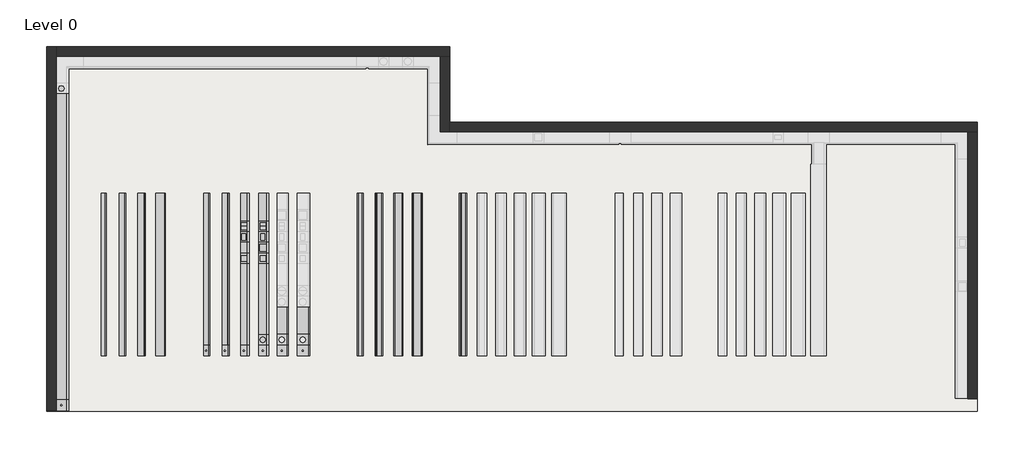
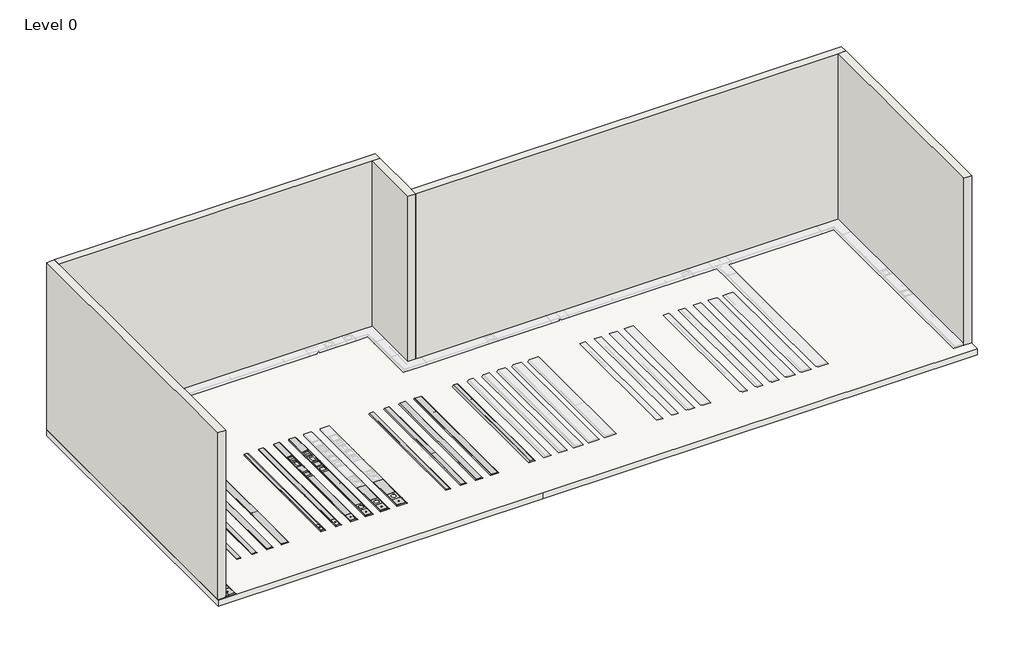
# One storey, part 1 of 3: 37 proxies, 35 cable carrier fittings, 29 cable carrier segments, 5 walls, 1 slab.
"""IFC4 building model written with IfcOpenShell, lengths in millimetres."""

from ifc_helpers import new_model, si_unit, frame, origin, origin_with_axes, place, context, project, spatial, polyline, outline, extrude, faceted_brep, transform, mapped, element, save
from components import electrical_fixtures_05cc857e, electrical_fixtures_f33839d7, electrical_fixtures_ba14407c, electrical_fixtures_65cdaa76, electrical_fixtures_ac32d23e, electrical_fixtures_02c799a8, electrical_fixtures_d09597e5, electrical_fixtures_258d29b7, electrical_fixtures_09e81cb8, electrical_fixtures_cb09e402, electrical_fixtures_030f25a6, electrical_fixtures_3be69e12, electrical_fixtures_9ca14389, electrical_fixtures_dc33c729, electrical_fixtures_804eddf2, electrical_fixtures_036a8886, electrical_fixtures_71575465, electrical_fixtures_682a3526, electrical_fixtures_fb766957, electrical_fixtures_fe2920ec, electrical_fixtures_4618f37a, electrical_fixtures_8a86bcad, electrical_fixtures_4cfbbe80, electrical_fixtures_90d3c515, electrical_fixtures_87b274da, electrical_fixtures_82f9d89b, electrical_fixtures_f480c002, electrical_fixtures_7eaf1fa6, electrical_fixtures_c1a48e14, electrical_fixtures_38a7e8f5, electrical_fixtures_3c40ff21, electrical_fixtures_61ad2b22, electrical_fixtures_64d9bd68, electrical_fixtures_30c5370d, electrical_fixtures_be977d01, electrical_fixtures_6f066a29, cable_carrier_fitting_c523f5b3, cable_carrier_fitting_70c32f65, cable_carrier_fitting_c61de814, cable_carrier_fitting_a1d8f8d7, cable_carrier_fitting_54bbb1a4, cable_carrier_fitting_d6a7fd45, cable_carrier_fitting_88479c70, cable_carrier_fitting_67592bc5, cable_carrier_fitting_ba382e1f, cable_carrier_fitting_8189a595, cable_carrier_fitting_91090111, cable_carrier_fitting_cbe752f2, cable_carrier_fitting_706685b8, cable_carrier_fitting_c839ef92, cable_carrier_fitting_9fda98ba, cable_carrier_fitting_430507f7, cable_carrier_fitting_90cd9352, cable_carrier_fitting_27d71de1, cable_carrier_fitting_eb91abf8

model = new_model("IFC4")

# Units and contexts
model_context = context("Model", 3, world=origin())
ifc_project = project(units=[si_unit("LENGTHUNIT", "METRE", prefix="MILLI")], contexts=[model_context])

# Site, building, storey
site = spatial("IfcSite", under=ifc_project)
building = spatial("IfcBuilding", under=site)
storey = spatial("IfcBuildingStorey", under=building, Name="Level 0", Elevation=0.0)

# Proxies
placement = place(None, origin())
electrical_fixtures_shape = electrical_fixtures_05cc857e(model_context)
element("IfcBuildingElementProxy", 1, Name="Electrical_Installation_Hager_Covers-With-Installation-Opening-E04 : Electrical_Installation_Hager_Covers-With-Installation-Opening-E04", ObjectType="Electrical_Installation_Hager_Covers-With-Installation-Opening-E04 : Electrical_Installation_Hager_Covers-With-Installation-Opening-E04", at=placement, inside=storey, context=model_context, shape_type="MappedRepresentation", body=[
    mapped(electrical_fixtures_shape, transform((-845.9970638, -4975.7909265, 35.0), x_axis=(0.0, 1.0, 0.0), y_axis=(-1.0, 0.0, 0.0), z_axis=(0.0, 0.0, 1.0))),
])
electrical_fixtures_2_shape = electrical_fixtures_f33839d7(model_context)
element("IfcBuildingElementProxy", 2, Name="Electrical_Installation_Hager_Covers-With-Installation-Opening-E04 : Electrical_Installation_Hager_Covers-With-Installation-Opening-E04", ObjectType="Electrical_Installation_Hager_Covers-With-Installation-Opening-E04 : Electrical_Installation_Hager_Covers-With-Installation-Opening-E04", at=placement, inside=storey, context=model_context, shape_type="MappedRepresentation", body=[
    mapped(electrical_fixtures_2_shape, transform((-145.9915625, -4975.7909265, 35.0), x_axis=(0.0, 1.0000000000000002, 0.0), y_axis=(-1.0000000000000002, 0.0, 0.0), z_axis=(0.0, 0.0, 1.0))),
])
electrical_fixtures_3_shape = electrical_fixtures_ba14407c(model_context)
element("IfcBuildingElementProxy", 3, Name="Electrical_Installation_Hager_Covers-With-Installation-Opening-E09 : Electrical_Installation_Hager_Covers-With-Installation-Opening-E09", ObjectType="Electrical_Installation_Hager_Covers-With-Installation-Opening-E09 : Electrical_Installation_Hager_Covers-With-Installation-Opening-E09", at=placement, inside=storey, context=model_context, shape_type="MappedRepresentation", body=[
    mapped(electrical_fixtures_3_shape, transform((-145.9915625, -4575.7909265, 35.0), x_axis=(0.0, 1.0000000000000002, 0.0), y_axis=(-1.0000000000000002, 0.0, 0.0), z_axis=(0.0, 0.0, 1.0))),
])
electrical_fixtures_4_shape = electrical_fixtures_65cdaa76(model_context)
element("IfcBuildingElementProxy", 4, Name="Electrical_Installation_Hager_Covers-With-Installation-Opening-E09 : Electrical_Installation_Hager_Covers-With-Installation-Opening-E09", ObjectType="Electrical_Installation_Hager_Covers-With-Installation-Opening-E09 : Electrical_Installation_Hager_Covers-With-Installation-Opening-E09", at=placement, inside=storey, context=model_context, shape_type="MappedRepresentation", body=[
    mapped(electrical_fixtures_4_shape, transform((-845.9915625, -4575.7909265, 35.0), x_axis=(0.0, 1.0000000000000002, 0.0), y_axis=(-1.0000000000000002, 0.0, 0.0), z_axis=(0.0, 0.0, 1.0))),
])
electrical_fixtures_5_shape = electrical_fixtures_ac32d23e(model_context)
element("IfcBuildingElementProxy", 5, Name="Electrical_Installation_Hager_Covers-With-Installation-Opening-GBZ : Electrical_Installation_Hager_Covers-With-Installation-Opening-GBZ", ObjectType="Electrical_Installation_Hager_Covers-With-Installation-Opening-GBZ : Electrical_Installation_Hager_Covers-With-Installation-Opening-GBZ", at=placement, inside=storey, context=model_context, shape_type="MappedRepresentation", body=[
    mapped(electrical_fixtures_5_shape, transform((1328.4735178, -9175.7909265, 35.0), x_axis=(0.0, 1.0000000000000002, 0.0), y_axis=(-1.0000000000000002, 0.0, 0.0), z_axis=(0.0, 0.0, 1.0))),
])
element("IfcBuildingElementProxy", 6, Name="Electrical_Installation_Hager_Covers-With-Installation-Opening-GBZ : Electrical_Installation_Hager_Covers-With-Installation-Opening-GBZ", ObjectType="Electrical_Installation_Hager_Covers-With-Installation-Opening-GBZ : Electrical_Installation_Hager_Covers-With-Installation-Opening-GBZ", at=placement, inside=storey, context=model_context, shape_type="MappedRepresentation", body=[
    mapped(electrical_fixtures_5_shape, transform((-7589.0640916, -11193.2434021, 35.0), x_axis=(0.0, 1.0, 0.0), y_axis=(-1.0, 0.0, 0.0), z_axis=(0.0, 0.0, 1.0))),
])
electrical_fixtures_6_shape = electrical_fixtures_02c799a8(model_context)
element("IfcBuildingElementProxy", 7, Name="Electrical_Installation_Hager_Covers-With-Installation-Opening-GBZ : Electrical_Installation_Hager_Covers-With-Installation-Opening-GBZ", ObjectType="Electrical_Installation_Hager_Covers-With-Installation-Opening-GBZ : Electrical_Installation_Hager_Covers-With-Installation-Opening-GBZ", at=placement, inside=storey, context=model_context, shape_type="MappedRepresentation", body=[
    mapped(electrical_fixtures_6_shape, transform((554.0029362, -9175.7909265, 35.0), x_axis=(0.0, 1.0000000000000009, 0.0), y_axis=(-1.0000000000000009, 0.0, 0.0), z_axis=(0.0, 0.0, 1.0))),
])
electrical_fixtures_7_shape = electrical_fixtures_d09597e5(model_context)
element("IfcBuildingElementProxy", 8, Name="Electrical_Installation_Hager_Covers-With-Installation-Opening-GBZ : Electrical_Installation_Hager_Covers-With-Installation-Opening-GBZ", ObjectType="Electrical_Installation_Hager_Covers-With-Installation-Opening-GBZ : Electrical_Installation_Hager_Covers-With-Installation-Opening-GBZ", at=placement, inside=storey, context=model_context, shape_type="MappedRepresentation", body=[
    mapped(electrical_fixtures_7_shape, transform((-845.9970638, -9175.7909265, 35.0), x_axis=(0.0, 1.0000000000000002, 0.0), y_axis=(-1.0000000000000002, 0.0, 0.0), z_axis=(0.0, 0.0, 1.0))),
])
electrical_fixtures_8_shape = electrical_fixtures_258d29b7(model_context)
element("IfcBuildingElementProxy", 9, Name="Electrical_Installation_Hager_Covers-With-Installation-Opening-GBZ : Electrical_Installation_Hager_Covers-With-Installation-Opening-GBZ", ObjectType="Electrical_Installation_Hager_Covers-With-Installation-Opening-GBZ : Electrical_Installation_Hager_Covers-With-Installation-Opening-GBZ", at=placement, inside=storey, context=model_context, shape_type="MappedRepresentation", body=[
    mapped(electrical_fixtures_8_shape, transform((-1545.9970638, -9175.7909265, 35.0), x_axis=(0.0, 1.0000000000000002, 0.0), y_axis=(-1.0000000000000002, 0.0, 0.0), z_axis=(0.0, 0.0, 1.0))),
])
electrical_fixtures_9_shape = electrical_fixtures_09e81cb8(model_context)
element("IfcBuildingElementProxy", 10, Name="Electrical_Installation_Hager_Covers-With-Installation-Opening-GBZ : Electrical_Installation_Hager_Covers-With-Installation-Opening-GBZ", ObjectType="Electrical_Installation_Hager_Covers-With-Installation-Opening-GBZ : Electrical_Installation_Hager_Covers-With-Installation-Opening-GBZ", at=placement, inside=storey, context=model_context, shape_type="MappedRepresentation", body=[
    mapped(electrical_fixtures_9_shape, transform((-2245.9970638, -9175.7909265, 35.0), x_axis=(0.0, 1.0000000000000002, 0.0), y_axis=(-1.0000000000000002, 0.0, 0.0), z_axis=(0.0, 0.0, 1.0))),
])
electrical_fixtures_10_shape = electrical_fixtures_cb09e402(model_context)
element("IfcBuildingElementProxy", 11, Name="Electrical_Installation_Hager_Covers-With-Installation-Opening-Q06 : Electrical_Installation_Hager_Covers-With-Installation-Opening-Q06", ObjectType="Electrical_Installation_Hager_Covers-With-Installation-Opening-Q06 : Electrical_Installation_Hager_Covers-With-Installation-Opening-Q06", at=placement, inside=storey, context=model_context, shape_type="MappedRepresentation", body=[
    mapped(electrical_fixtures_10_shape, transform((-145.9970638, -5775.7909265, 35.0), x_axis=(0.0, 1.0000000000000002, 0.0), y_axis=(-1.0000000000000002, 0.0, 0.0), z_axis=(0.0, 0.0, 1.0))),
])
electrical_fixtures_11_shape = electrical_fixtures_030f25a6(model_context)
element("IfcBuildingElementProxy", 12, Name="Electrical_Installation_Hager_Covers-With-Installation-Opening-R06 : Electrical_Installation_Hager_Covers-With-Installation-Opening-R06", ObjectType="Electrical_Installation_Hager_Covers-With-Installation-Opening-R06 : Electrical_Installation_Hager_Covers-With-Installation-Opening-R06", at=placement, inside=storey, context=model_context, shape_type="MappedRepresentation", body=[
    mapped(electrical_fixtures_11_shape, transform((-145.9970638, -8775.7909265, 35.0), x_axis=(0.0, 1.0000000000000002, 0.0), y_axis=(-1.0000000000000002, 0.0, 0.0), z_axis=(0.0, 0.0, 1.0))),
])
electrical_fixtures_12_shape = electrical_fixtures_3be69e12(model_context)
element("IfcBuildingElementProxy", 13, Name="Electrical_Installation_Hager_Covers-With-Installation-Opening-R06 : Electrical_Installation_Hager_Covers-With-Installation-Opening-R06", ObjectType="Electrical_Installation_Hager_Covers-With-Installation-Opening-R06 : Electrical_Installation_Hager_Covers-With-Installation-Opening-R06", at=placement, inside=storey, context=model_context, shape_type="MappedRepresentation", body=[
    mapped(electrical_fixtures_12_shape, transform((1328.4735178, -8775.7909265, 35.0), x_axis=(0.0, 1.0000000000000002, 0.0), y_axis=(-1.0000000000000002, 0.0, 0.0), z_axis=(0.0, 0.0, 1.0))),
])
electrical_fixtures_13_shape = electrical_fixtures_9ca14389(model_context)
element("IfcBuildingElementProxy", 14, Name="Electrical_Installation_Hager_Blank-Cover-800mm-Double-Sided-Height-40mm : Electrical_Installation_Hager_Blank-Cover-800mm-Double-Sided-Height-40mm", ObjectType="Electrical_Installation_Hager_Blank-Cover-800mm-Double-Sided-Height-40mm : Electrical_Installation_Hager_Blank-Cover-800mm-Double-Sided-Height-40mm", at=placement, inside=storey, context=model_context, shape_type="MappedRepresentation", body=[
    mapped(electrical_fixtures_13_shape, transform((3454.0029362, -9175.7909265, 20.0), x_axis=(0.0, 1.0, 0.0), y_axis=(-1.0, 0.0, 0.0), z_axis=(0.0, 0.0, 1.0))),
])
electrical_fixtures_14_shape = electrical_fixtures_dc33c729(model_context)
element("IfcBuildingElementProxy", 15, Name="Electrical_Installation_Hager_Blank-Cover-800mm-Double-Sided-Height-40mm : Electrical_Installation_Hager_Blank-Cover-800mm-Double-Sided-Height-40mm", ObjectType="Electrical_Installation_Hager_Blank-Cover-800mm-Double-Sided-Height-40mm : Electrical_Installation_Hager_Blank-Cover-800mm-Double-Sided-Height-40mm", at=placement, inside=storey, context=model_context, shape_type="MappedRepresentation", body=[
    mapped(electrical_fixtures_14_shape, transform((4154.0029362, -9175.7909265, 20.0), x_axis=(0.0, 1.0, 0.0), y_axis=(-1.0, 0.0, 0.0), z_axis=(0.0, 0.0, 1.0))),
])
electrical_fixtures_15_shape = electrical_fixtures_804eddf2(model_context)
element("IfcBuildingElementProxy", 16, Name="Electrical_Installation_Hager_Blank-Cover-800mm-Double-Sided-Height-40mm : Electrical_Installation_Hager_Blank-Cover-800mm-Double-Sided-Height-40mm", ObjectType="Electrical_Installation_Hager_Blank-Cover-800mm-Double-Sided-Height-40mm : Electrical_Installation_Hager_Blank-Cover-800mm-Double-Sided-Height-40mm", at=placement, inside=storey, context=model_context, shape_type="MappedRepresentation", body=[
    mapped(electrical_fixtures_15_shape, transform((4854.0029362, -9175.7909265, 20.0), x_axis=(0.0, 1.0, 0.0), y_axis=(-1.0, 0.0, 0.0), z_axis=(0.0, 0.0, 1.0))),
])
electrical_fixtures_16_shape = electrical_fixtures_036a8886(model_context)
element("IfcBuildingElementProxy", 17, Name="Electrical_Installation_Hager_Blank-Cover-800mm-Double-Sided-Height-40mm : Electrical_Installation_Hager_Blank-Cover-800mm-Double-Sided-Height-40mm", ObjectType="Electrical_Installation_Hager_Blank-Cover-800mm-Double-Sided-Height-40mm : Electrical_Installation_Hager_Blank-Cover-800mm-Double-Sided-Height-40mm", at=placement, inside=storey, context=model_context, shape_type="MappedRepresentation", body=[
    mapped(electrical_fixtures_16_shape, transform((5554.0029362, -9175.7909265, 20.0), x_axis=(0.0, 1.0, 0.0), y_axis=(-1.0, 0.0, 0.0), z_axis=(0.0, 0.0, 1.0))),
])
electrical_fixtures_17_shape = electrical_fixtures_71575465(model_context)
element("IfcBuildingElementProxy", 18, Name="Electrical_Installation_Hager_Blank-Cover-800mm-Double-Sided-Height-70mm : Electrical_Installation_Hager_Blank-Cover-800mm-Double-Sided-Height-70mm", ObjectType="Electrical_Installation_Hager_Blank-Cover-800mm-Double-Sided-Height-70mm : Electrical_Installation_Hager_Blank-Cover-800mm-Double-Sided-Height-70mm", at=placement, inside=storey, context=model_context, shape_type="MappedRepresentation", body=[
    mapped(electrical_fixtures_17_shape, transform((7254.0029362, -9175.7909265, 35.0), x_axis=(0.0, 1.0, 0.0), y_axis=(-1.0, 0.0, 0.0), z_axis=(0.0, 0.0, 1.0))),
])
electrical_fixtures_18_shape = electrical_fixtures_682a3526(model_context)
element("IfcBuildingElementProxy", 19, Name="Electrical_Installation_Hager_Blank-Cover-800mm-Single-Sided-Height-40mm : Electrical_Installation_Hager_Blank-Cover-800mm-Single-Sided-Height-40mm", ObjectType="Electrical_Installation_Hager_Blank-Cover-800mm-Single-Sided-Height-40mm : Electrical_Installation_Hager_Blank-Cover-800mm-Single-Sided-Height-40mm", at=placement, inside=storey, context=model_context, shape_type="MappedRepresentation", body=[
    mapped(electrical_fixtures_18_shape, transform((-6045.9970638, -9172.7909265, 20.0), x_axis=(0.0, 1.0, 0.0), y_axis=(-1.0, 0.0, 0.0), z_axis=(0.0, 0.0, 1.0))),
])
electrical_fixtures_19_shape = electrical_fixtures_fb766957(model_context)
element("IfcBuildingElementProxy", 20, Name="Electrical_Installation_Hager_Blank-Cover-800mm-Single-Sided-Height-40mm : Electrical_Installation_Hager_Blank-Cover-800mm-Single-Sided-Height-40mm", ObjectType="Electrical_Installation_Hager_Blank-Cover-800mm-Single-Sided-Height-40mm : Electrical_Installation_Hager_Blank-Cover-800mm-Single-Sided-Height-40mm", at=placement, inside=storey, context=model_context, shape_type="MappedRepresentation", body=[
    mapped(electrical_fixtures_19_shape, transform((-5345.9970638, -9175.7909265, 20.0), x_axis=(0.0, 1.0, 0.0), y_axis=(-1.0, 0.0, 0.0), z_axis=(0.0, 0.0, 1.0))),
])
electrical_fixtures_20_shape = electrical_fixtures_fe2920ec(model_context)
element("IfcBuildingElementProxy", 21, Name="Electrical_Installation_Hager_Blank-Cover-800mm-Single-Sided-Height-40mm : Electrical_Installation_Hager_Blank-Cover-800mm-Single-Sided-Height-40mm", ObjectType="Electrical_Installation_Hager_Blank-Cover-800mm-Single-Sided-Height-40mm : Electrical_Installation_Hager_Blank-Cover-800mm-Single-Sided-Height-40mm", at=placement, inside=storey, context=model_context, shape_type="MappedRepresentation", body=[
    mapped(electrical_fixtures_20_shape, transform((-4645.9970638, -9175.7909265, 20.0), x_axis=(0.0, 1.0, 0.0), y_axis=(-1.0, 0.0, 0.0), z_axis=(0.0, 0.0, 1.0))),
])
electrical_fixtures_21_shape = electrical_fixtures_4618f37a(model_context)
element("IfcBuildingElementProxy", 22, Name="Electrical_Installation_Hager_Blank-Cover-800mm-Single-Sided-Height-40mm : Electrical_Installation_Hager_Blank-Cover-800mm-Single-Sided-Height-40mm", ObjectType="Electrical_Installation_Hager_Blank-Cover-800mm-Single-Sided-Height-40mm : Electrical_Installation_Hager_Blank-Cover-800mm-Single-Sided-Height-40mm", at=placement, inside=storey, context=model_context, shape_type="MappedRepresentation", body=[
    mapped(electrical_fixtures_21_shape, transform((-3945.9970638, -9175.7909265, 20.0), x_axis=(0.0, 1.0, 0.0), y_axis=(-1.0, 0.0, 0.0), z_axis=(0.0, 0.0, 1.0))),
])
electrical_fixtures_22_shape = electrical_fixtures_8a86bcad(model_context)
element("IfcBuildingElementProxy", 23, Name="Electrical_Installation_Hager_Blank-Cover-800mm-Single-Sided-Height-70mm : Electrical_Installation_Hager_Blank-Cover-800mm-Single-Sided-Height-70mm", ObjectType="Electrical_Installation_Hager_Blank-Cover-800mm-Single-Sided-Height-70mm : Electrical_Installation_Hager_Blank-Cover-800mm-Single-Sided-Height-70mm", at=placement, inside=storey, context=model_context, shape_type="MappedRepresentation", body=[
    mapped(electrical_fixtures_22_shape, transform((-2245.9970638, -8775.7909265, 35.0), x_axis=(0.0, 1.0, 0.0), y_axis=(-1.0, 0.0, 0.0), z_axis=(0.0, 0.0, 1.0))),
])
electrical_fixtures_23_shape = electrical_fixtures_4cfbbe80(model_context)
element("IfcBuildingElementProxy", 24, Name="Electrical_Installation_Hager_Blank-Cover-800mm-Single-Sided-Height-70mm : Electrical_Installation_Hager_Blank-Cover-800mm-Single-Sided-Height-70mm", ObjectType="Electrical_Installation_Hager_Blank-Cover-800mm-Single-Sided-Height-70mm : Electrical_Installation_Hager_Blank-Cover-800mm-Single-Sided-Height-70mm", at=placement, inside=storey, context=model_context, shape_type="MappedRepresentation", body=[
    mapped(electrical_fixtures_23_shape, transform((-1545.9970638, -8775.7909265, 35.0), x_axis=(0.0, 1.0, 0.0), y_axis=(-1.0, 0.0, 0.0), z_axis=(0.0, 0.0, 1.0))),
])
electrical_fixtures_24_shape = electrical_fixtures_90d3c515(model_context)
element("IfcBuildingElementProxy", 25, Name="Electrical_Installation_Hager_Blank-Cover-800mm-Single-Sided-Height-70mm : Electrical_Installation_Hager_Blank-Cover-800mm-Single-Sided-Height-70mm", ObjectType="Electrical_Installation_Hager_Blank-Cover-800mm-Single-Sided-Height-70mm : Electrical_Installation_Hager_Blank-Cover-800mm-Single-Sided-Height-70mm", at=placement, inside=storey, context=model_context, shape_type="MappedRepresentation", body=[
    mapped(electrical_fixtures_24_shape, transform((-845.9970638, -8775.7909265, 35.0), x_axis=(0.0, 1.0, 0.0), y_axis=(-1.0, 0.0, 0.0), z_axis=(0.0, 0.0, 1.0))),
])
electrical_fixtures_25_shape = electrical_fixtures_87b274da(model_context)
element("IfcBuildingElementProxy", 26, Name="Electrical_Installation_Hager_Blank-Cover-800mm-Single-Sided-Height-70mm : Electrical_Installation_Hager_Blank-Cover-800mm-Single-Sided-Height-70mm", ObjectType="Electrical_Installation_Hager_Blank-Cover-800mm-Single-Sided-Height-70mm : Electrical_Installation_Hager_Blank-Cover-800mm-Single-Sided-Height-70mm", at=placement, inside=storey, context=model_context, shape_type="MappedRepresentation", body=[
    mapped(electrical_fixtures_25_shape, transform((-145.9970638, -8375.7909265, 35.0), x_axis=(0.0, 1.0, 0.0), y_axis=(-1.0, 0.0, 0.0), z_axis=(0.0, 0.0, 1.0))),
])
electrical_fixtures_26_shape = electrical_fixtures_82f9d89b(model_context)
element("IfcBuildingElementProxy", 27, Name="Electrical_Installation_Hager_Blank-Cover-800mm-Single-Sided-Height-70mm : Electrical_Installation_Hager_Blank-Cover-800mm-Single-Sided-Height-70mm", ObjectType="Electrical_Installation_Hager_Blank-Cover-800mm-Single-Sided-Height-70mm : Electrical_Installation_Hager_Blank-Cover-800mm-Single-Sided-Height-70mm", at=placement, inside=storey, context=model_context, shape_type="MappedRepresentation", body=[
    mapped(electrical_fixtures_26_shape, transform((554.0084375, -8375.7909265, 35.0), x_axis=(0.0, 1.0, 0.0), y_axis=(-1.0, 0.0, 0.0), z_axis=(0.0, 0.0, 1.0))),
])
electrical_fixtures_27_shape = electrical_fixtures_f480c002(model_context)
element("IfcBuildingElementProxy", 28, Name="Electrical_Installation_Hager_Blank-Cover-800mm-Single-Sided-Height-70mm : Electrical_Installation_Hager_Blank-Cover-800mm-Single-Sided-Height-70mm", ObjectType="Electrical_Installation_Hager_Blank-Cover-800mm-Single-Sided-Height-70mm : Electrical_Installation_Hager_Blank-Cover-800mm-Single-Sided-Height-70mm", at=placement, inside=storey, context=model_context, shape_type="MappedRepresentation", body=[
    mapped(electrical_fixtures_27_shape, transform((1328.479019, -8375.7909265, 35.0), x_axis=(0.0, 1.0, 0.0), y_axis=(-1.0, 0.0, 0.0), z_axis=(0.0, 0.0, 1.0))),
])
electrical_fixtures_28_shape = electrical_fixtures_7eaf1fa6(model_context)
element("IfcBuildingElementProxy", 29, Name="Electrical_Installation_Hager_Blank-Cover-800mm-Single-Sided-Height-70mm : Electrical_Installation_Hager_Blank-Cover-800mm-Single-Sided-Height-70mm", ObjectType="Electrical_Installation_Hager_Blank-Cover-800mm-Single-Sided-Height-70mm : Electrical_Installation_Hager_Blank-Cover-800mm-Single-Sided-Height-70mm", at=placement, inside=storey, context=model_context, shape_type="MappedRepresentation", body=[
    mapped(electrical_fixtures_28_shape, transform((-845.9915625, -4175.7909265, 35.0), x_axis=(0.0, 1.0, 0.0), y_axis=(-1.0, 0.0, 0.0), z_axis=(0.0, 0.0, 1.0))),
])
electrical_fixtures_29_shape = electrical_fixtures_c1a48e14(model_context)
element("IfcBuildingElementProxy", 30, Name="Electrical_Installation_Hager_Blank-Cover-800mm-Single-Sided-Height-70mm : Electrical_Installation_Hager_Blank-Cover-800mm-Single-Sided-Height-70mm", ObjectType="Electrical_Installation_Hager_Blank-Cover-800mm-Single-Sided-Height-70mm : Electrical_Installation_Hager_Blank-Cover-800mm-Single-Sided-Height-70mm", at=placement, inside=storey, context=model_context, shape_type="MappedRepresentation", body=[
    mapped(electrical_fixtures_29_shape, transform((-145.9915625, -4175.7909265, 35.0), x_axis=(0.0, 1.0, 0.0), y_axis=(-1.0, 0.0, 0.0), z_axis=(0.0, 0.0, 1.0))),
])
electrical_fixtures_30_shape = electrical_fixtures_38a7e8f5(model_context)
element("IfcBuildingElementProxy", 31, Name="Electrical_Installation_Hager_Blank-Cover-800mm-Single-Sided-Height-70mm : Electrical_Installation_Hager_Blank-Cover-800mm-Single-Sided-Height-70mm", ObjectType="Electrical_Installation_Hager_Blank-Cover-800mm-Single-Sided-Height-70mm : Electrical_Installation_Hager_Blank-Cover-800mm-Single-Sided-Height-70mm", at=placement, inside=storey, context=model_context, shape_type="MappedRepresentation", body=[
    mapped(electrical_fixtures_30_shape, transform((-845.9915625, -5375.7909265, 35.0), x_axis=(0.0, 1.0, 0.0), y_axis=(-1.0, 0.0, 0.0), z_axis=(0.0, 0.0, 1.0))),
])
electrical_fixtures_31_shape = electrical_fixtures_3c40ff21(model_context)
element("IfcBuildingElementProxy", 32, Name="Electrical_Installation_Hager_Blank-Cover-800mm-Single-Sided-Height-70mm : Electrical_Installation_Hager_Blank-Cover-800mm-Single-Sided-Height-70mm", ObjectType="Electrical_Installation_Hager_Blank-Cover-800mm-Single-Sided-Height-70mm : Electrical_Installation_Hager_Blank-Cover-800mm-Single-Sided-Height-70mm", at=placement, inside=storey, context=model_context, shape_type="MappedRepresentation", body=[
    mapped(electrical_fixtures_31_shape, transform((-7589.0640916, -10793.2434021, 35.0), x_axis=(0.0, 1.0, 0.0), y_axis=(-1.0, 0.0, 0.0), z_axis=(0.0, 0.0, 1.0))),
])
electrical_fixtures_32_shape = electrical_fixtures_61ad2b22(model_context)
element("IfcBuildingElementProxy", 33, Name="Electrical_Installation_Hager_Partition-Wall : Electrical_Installation_Hager_Partition-Wall", ObjectType="Electrical_Installation_Hager_Partition-Wall : Electrical_Installation_Hager_Partition-Wall", at=placement, inside=storey, context=model_context, shape_type="MappedRepresentation", body=[
    mapped(electrical_fixtures_32_shape, transform((-7589.0640916, -11190.2434021, 35.0), x_axis=(0.0, 1.0, 0.0), y_axis=(-1.0, 0.0, 0.0), z_axis=(0.0, 0.0, 1.0))),
])
electrical_fixtures_33_shape = electrical_fixtures_64d9bd68(model_context)
element("IfcBuildingElementProxy", 34, Name="Electrical_Installation_Hager_Covers-With-Installation-Opening-GBZ : Electrical_Installation_Hager_Covers-With-Installation-Opening-GBZ", ObjectType="Electrical_Installation_Hager_Covers-With-Installation-Opening-GBZ : Electrical_Installation_Hager_Covers-With-Installation-Opening-GBZ", at=placement, inside=storey, context=model_context, shape_type="MappedRepresentation", body=[
    mapped(electrical_fixtures_33_shape, transform((-145.9970638, -9175.7909265, 35.0), x_axis=(0.0, 1.0000000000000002, 0.0), y_axis=(-1.0000000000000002, 0.0, 0.0), z_axis=(0.0, 0.0, 1.0))),
])
electrical_fixtures_34_shape = electrical_fixtures_30c5370d(model_context)
element("IfcBuildingElementProxy", 35, Name="Electrical_Installation_Hager_Covers-With-Installation-Opening-R06 : Electrical_Installation_Hager_Covers-With-Installation-Opening-R06", ObjectType="Electrical_Installation_Hager_Covers-With-Installation-Opening-R06 : Electrical_Installation_Hager_Covers-With-Installation-Opening-R06", at=placement, inside=storey, context=model_context, shape_type="MappedRepresentation", body=[
    mapped(electrical_fixtures_34_shape, transform((554.0029362, -8775.7909265, 35.0), x_axis=(0.0, 1.0000000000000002, 0.0), y_axis=(-1.0000000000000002, 0.0, 0.0), z_axis=(0.0, 0.0, 1.0))),
])
electrical_fixtures_35_shape = electrical_fixtures_be977d01(model_context)
element("IfcBuildingElementProxy", 36, Name="Electrical_Installation_Hager_Covers-With-Installation-Opening-Q06 : Electrical_Installation_Hager_Covers-With-Installation-Opening-Q06", ObjectType="Electrical_Installation_Hager_Covers-With-Installation-Opening-Q06 : Electrical_Installation_Hager_Covers-With-Installation-Opening-Q06", at=placement, inside=storey, context=model_context, shape_type="MappedRepresentation", body=[
    mapped(electrical_fixtures_35_shape, transform((-845.9970638, -5775.7909265, 35.0), x_axis=(0.0, 1.0000000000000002, 0.0), y_axis=(-1.0000000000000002, 0.0, 0.0), z_axis=(0.0, 0.0, 1.0))),
])
electrical_fixtures_36_shape = electrical_fixtures_6f066a29(model_context)
element("IfcBuildingElementProxy", 37, Name="Electrical_Installation_Hager_Covers-With-Installation-Opening-Q12 : Electrical_Installation_Hager_Covers-With-Installation-Opening-Q12", ObjectType="Electrical_Installation_Hager_Covers-With-Installation-Opening-Q12 : Electrical_Installation_Hager_Covers-With-Installation-Opening-Q12", at=placement, inside=storey, context=model_context, shape_type="MappedRepresentation", body=[
    mapped(electrical_fixtures_36_shape, transform((-145.9915625, -5375.7909265, 35.0), x_axis=(0.0, 1.0000000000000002, 0.0), y_axis=(-1.0000000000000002, 0.0, 0.0), z_axis=(0.0, 0.0, 1.0))),
])

# Cable carrier fittings
cable_carrier_fitting_shape = cable_carrier_fitting_c523f5b3(model_context)
element("IfcCableCarrierFitting", 38, ObjectType="Electrical_Installation_Hager_Trunking-Connector : Electrical_Installation_Hager_Trunking-Connector", at=placement, inside=storey, context=model_context, shape_type="MappedRepresentation", body=[
    mapped(cable_carrier_fitting_shape, transform((-2245.9970638, -6772.7909265, 35.0), x_axis=(0.0, 1.0, 0.0), y_axis=(1.0, 0.0, 0.0), z_axis=(0.0, 0.0, -1.0))),
])
element("IfcCableCarrierFitting", 39, ObjectType="Electrical_Installation_Hager_Trunking-Connector : Electrical_Installation_Hager_Trunking-Connector", at=placement, inside=storey, context=model_context, shape_type="MappedRepresentation", body=[
    mapped(cable_carrier_fitting_shape, transform((-2245.9970638, -4372.7909265, 35.0), x_axis=(0.0, 1.0, 0.0), y_axis=(1.0, 0.0, 0.0), z_axis=(0.0, 0.0, -1.0))),
])
cable_carrier_fitting_2_shape = cable_carrier_fitting_70c32f65(model_context)
element("IfcCableCarrierFitting", 40, ObjectType="Electrical_Installation_Hager_End-Piece : Electrical_Installation_Hager_End-Piece", at=placement, inside=storey, context=model_context, shape_type="MappedRepresentation", body=[
    mapped(cable_carrier_fitting_2_shape, transform((-6045.9970638, -9169.7909265, 20.0), x_axis=(0.0, -1.0, 0.0), y_axis=(1.0, 0.0, 0.0), z_axis=(0.0, 0.0, 1.0))),
])
cable_carrier_fitting_3_shape = cable_carrier_fitting_c61de814(model_context)
element("IfcCableCarrierFitting", 41, ObjectType="Electrical_Installation_Hager_End-Piece : Electrical_Installation_Hager_End-Piece", at=placement, inside=storey, context=model_context, shape_type="MappedRepresentation", body=[
    mapped(cable_carrier_fitting_3_shape, transform((1328.4735178, -9172.7909265, 35.0), x_axis=(0.0, -1.0, 0.0), y_axis=(1.0, 0.0, 0.0), z_axis=(0.0, 0.0, 1.0))),
])
element("IfcCableCarrierFitting", 42, ObjectType="Electrical_Installation_Hager_End-Piece : Electrical_Installation_Hager_End-Piece", at=placement, inside=storey, context=model_context, shape_type="MappedRepresentation", body=[
    mapped(cable_carrier_fitting_3_shape, transform((-7589.0640916, -11190.2434021, 35.0), x_axis=(0.0, -1.0, 0.0), y_axis=(1.0, 0.0, 0.0), z_axis=(0.0, 0.0, 1.0))),
])
cable_carrier_fitting_4_shape = cable_carrier_fitting_a1d8f8d7(model_context)
element("IfcCableCarrierFitting", 43, ObjectType="Electrical_Installation_Hager_End-Piece : Electrical_Installation_Hager_End-Piece", at=placement, inside=storey, context=model_context, shape_type="MappedRepresentation", body=[
    mapped(cable_carrier_fitting_4_shape, transform((554.0029362, -9172.7909265, 35.0), x_axis=(0.0, -1.0, 0.0), y_axis=(1.0, 0.0, 0.0), z_axis=(0.0, 0.0, 1.0))),
])
cable_carrier_fitting_5_shape = cable_carrier_fitting_54bbb1a4(model_context)
element("IfcCableCarrierFitting", 44, ObjectType="Electrical_Installation_Hager_End-Piece : Electrical_Installation_Hager_End-Piece", at=placement, inside=storey, context=model_context, shape_type="MappedRepresentation", body=[
    mapped(cable_carrier_fitting_5_shape, transform((-845.9970638, -9172.7909265, 35.0), x_axis=(0.0, -1.0, 0.0), y_axis=(1.0, 0.0, 0.0), z_axis=(0.0, 0.0, 1.0))),
])
cable_carrier_fitting_6_shape = cable_carrier_fitting_d6a7fd45(model_context)
element("IfcCableCarrierFitting", 45, ObjectType="Electrical_Installation_Hager_End-Piece : Electrical_Installation_Hager_End-Piece", at=placement, inside=storey, context=model_context, shape_type="MappedRepresentation", body=[
    mapped(cable_carrier_fitting_6_shape, transform((-1545.9970638, -9172.7909265, 35.0), x_axis=(0.0, -1.0, 0.0), y_axis=(1.0, 0.0, 0.0), z_axis=(0.0, 0.0, 1.0))),
])
cable_carrier_fitting_7_shape = cable_carrier_fitting_88479c70(model_context)
element("IfcCableCarrierFitting", 46, ObjectType="Electrical_Installation_Hager_End-Piece : Electrical_Installation_Hager_End-Piece", at=placement, inside=storey, context=model_context, shape_type="MappedRepresentation", body=[
    mapped(cable_carrier_fitting_7_shape, transform((-145.9970638, -9172.7909265, 35.0), x_axis=(0.0, -1.0, 0.0), y_axis=(1.0, 0.0, 0.0), z_axis=(0.0, 0.0, 1.0))),
])
cable_carrier_fitting_8_shape = cable_carrier_fitting_67592bc5(model_context)
element("IfcCableCarrierFitting", 47, ObjectType="Electrical_Installation_Hager_End-Piece : Electrical_Installation_Hager_End-Piece", at=placement, inside=storey, context=model_context, shape_type="MappedRepresentation", body=[
    mapped(cable_carrier_fitting_8_shape, transform((3454.0029362, -9172.7909265, 20.0), x_axis=(0.0, -1.0, 0.0), y_axis=(1.0, 0.0, 0.0), z_axis=(0.0, 0.0, 1.0))),
])
cable_carrier_fitting_9_shape = cable_carrier_fitting_ba382e1f(model_context)
element("IfcCableCarrierFitting", 48, ObjectType="Electrical_Installation_Hager_End-Piece : Electrical_Installation_Hager_End-Piece", at=placement, inside=storey, context=model_context, shape_type="MappedRepresentation", body=[
    mapped(cable_carrier_fitting_9_shape, transform((4154.0029362, -9172.7909265, 20.0), x_axis=(0.0, -1.0, 0.0), y_axis=(1.0, 0.0, 0.0), z_axis=(0.0, 0.0, 1.0))),
])
cable_carrier_fitting_10_shape = cable_carrier_fitting_8189a595(model_context)
element("IfcCableCarrierFitting", 49, ObjectType="Electrical_Installation_Hager_End-Piece : Electrical_Installation_Hager_End-Piece", at=placement, inside=storey, context=model_context, shape_type="MappedRepresentation", body=[
    mapped(cable_carrier_fitting_10_shape, transform((4854.0029362, -9172.7909265, 20.0), x_axis=(0.0, -1.0, 0.0), y_axis=(1.0, 0.0, 0.0), z_axis=(0.0, 0.0, 1.0))),
])
cable_carrier_fitting_11_shape = cable_carrier_fitting_91090111(model_context)
element("IfcCableCarrierFitting", 50, ObjectType="Electrical_Installation_Hager_End-Piece : Electrical_Installation_Hager_End-Piece", at=placement, inside=storey, context=model_context, shape_type="MappedRepresentation", body=[
    mapped(cable_carrier_fitting_11_shape, transform((5554.0029362, -9172.7909265, 20.0), x_axis=(0.0, -1.0, 0.0), y_axis=(1.0, 0.0, 0.0), z_axis=(0.0, 0.0, 1.0))),
])
cable_carrier_fitting_12_shape = cable_carrier_fitting_cbe752f2(model_context)
element("IfcCableCarrierFitting", 51, ObjectType="Electrical_Installation_Hager_End-Piece : Electrical_Installation_Hager_End-Piece", at=placement, inside=storey, context=model_context, shape_type="MappedRepresentation", body=[
    mapped(cable_carrier_fitting_12_shape, transform((-4645.9970638, -9172.7909265, 20.0), x_axis=(0.0, -1.0, 0.0), y_axis=(1.0, 0.0, 0.0), z_axis=(0.0, 0.0, 1.0))),
])
cable_carrier_fitting_13_shape = cable_carrier_fitting_706685b8(model_context)
element("IfcCableCarrierFitting", 52, ObjectType="Electrical_Installation_Hager_End-Piece : Electrical_Installation_Hager_End-Piece", at=placement, inside=storey, context=model_context, shape_type="MappedRepresentation", body=[
    mapped(cable_carrier_fitting_13_shape, transform((-3945.9970638, -9172.7909265, 20.0), x_axis=(0.0, -1.0, 0.0), y_axis=(1.0, 0.0, 0.0), z_axis=(0.0, 0.0, 1.0))),
])
cable_carrier_fitting_14_shape = cable_carrier_fitting_c839ef92(model_context)
element("IfcCableCarrierFitting", 53, ObjectType="Electrical_Installation_Hager_End-Piece : Electrical_Installation_Hager_End-Piece", at=placement, inside=storey, context=model_context, shape_type="MappedRepresentation", body=[
    mapped(cable_carrier_fitting_14_shape, transform((-2245.9970638, -9172.7909265, 35.0), x_axis=(0.0, -1.0, 0.0), y_axis=(1.0, 0.0, 0.0), z_axis=(0.0, 0.0, 1.0))),
])
cable_carrier_fitting_15_shape = cable_carrier_fitting_9fda98ba(model_context)
element("IfcCableCarrierFitting", 54, ObjectType="Electrical_Installation_Hager_End-Piece : Electrical_Installation_Hager_End-Piece", at=placement, inside=storey, context=model_context, shape_type="MappedRepresentation", body=[
    mapped(cable_carrier_fitting_15_shape, transform((-5345.9970638, -9172.7909265, 20.0), x_axis=(0.0, -1.0, 0.0), y_axis=(1.0, 0.0, 0.0), z_axis=(0.0, 0.0, 1.0))),
])
element("IfcCableCarrierFitting", 55, ObjectType="Electrical_Installation_Hager_Trunking-Connector : Electrical_Installation_Hager_Trunking-Connector", at=placement, inside=storey, context=model_context, shape_type="MappedRepresentation", body=[
    mapped(cable_carrier_fitting_shape, transform((-6045.9970638, -6772.7909265, 20.0), x_axis=(0.0, 1.0, 0.0), y_axis=(1.0, 0.0, 0.0), z_axis=(0.0, 0.0, -1.0))),
])
element("IfcCableCarrierFitting", 56, ObjectType="Electrical_Installation_Hager_Trunking-Connector : Electrical_Installation_Hager_Trunking-Connector", at=placement, inside=storey, context=model_context, shape_type="MappedRepresentation", body=[
    mapped(cable_carrier_fitting_shape, transform((-6045.9970638, -4372.7909265, 20.0), x_axis=(0.0, 1.0, 0.0), y_axis=(1.0, 0.0, 0.0), z_axis=(0.0, 0.0, -1.0))),
])
cable_carrier_fitting_16_shape = cable_carrier_fitting_430507f7(model_context)
element("IfcCableCarrierFitting", 57, ObjectType="Electrical_Installation_Hager_Trunking-Connector : Electrical_Installation_Hager_Trunking-Connector", at=placement, inside=storey, context=model_context, shape_type="MappedRepresentation", body=[
    mapped(cable_carrier_fitting_16_shape, transform((-5345.9970638, -6772.7909265, 20.0), x_axis=(0.0, 1.0, 0.0), y_axis=(1.0, 0.0, 0.0), z_axis=(0.0, 0.0, -1.0))),
])
element("IfcCableCarrierFitting", 58, ObjectType="Electrical_Installation_Hager_Trunking-Connector : Electrical_Installation_Hager_Trunking-Connector", at=placement, inside=storey, context=model_context, shape_type="MappedRepresentation", body=[
    mapped(cable_carrier_fitting_16_shape, transform((-5345.9970638, -4372.7909265, 20.0), x_axis=(0.0, 1.0, 0.0), y_axis=(1.0, 0.0, 0.0), z_axis=(0.0, 0.0, -1.0))),
])
cable_carrier_fitting_17_shape = cable_carrier_fitting_90cd9352(model_context)
element("IfcCableCarrierFitting", 59, ObjectType="Electrical_Installation_Hager_Trunking-Connector : Electrical_Installation_Hager_Trunking-Connector", at=placement, inside=storey, context=model_context, shape_type="MappedRepresentation", body=[
    mapped(cable_carrier_fitting_17_shape, transform((-4645.9970638, -6772.7909265, 20.0), x_axis=(0.0, 1.0, 0.0), y_axis=(1.0, 0.0, 0.0), z_axis=(0.0, 0.0, -1.0))),
])
element("IfcCableCarrierFitting", 60, ObjectType="Electrical_Installation_Hager_Trunking-Connector : Electrical_Installation_Hager_Trunking-Connector", at=placement, inside=storey, context=model_context, shape_type="MappedRepresentation", body=[
    mapped(cable_carrier_fitting_17_shape, transform((-4645.9970638, -4372.7909265, 20.0), x_axis=(0.0, 1.0, 0.0), y_axis=(1.0, 0.0, 0.0), z_axis=(0.0, 0.0, -1.0))),
])
cable_carrier_fitting_18_shape = cable_carrier_fitting_27d71de1(model_context)
element("IfcCableCarrierFitting", 61, ObjectType="Electrical_Installation_Hager_Trunking-Connector : Electrical_Installation_Hager_Trunking-Connector", at=placement, inside=storey, context=model_context, shape_type="MappedRepresentation", body=[
    mapped(cable_carrier_fitting_18_shape, transform((-3945.9970638, -6772.7909265, 20.0), x_axis=(0.0, 1.0, 0.0), y_axis=(1.0, 0.0, 0.0), z_axis=(0.0, 0.0, -1.0))),
])
element("IfcCableCarrierFitting", 62, ObjectType="Electrical_Installation_Hager_Trunking-Connector : Electrical_Installation_Hager_Trunking-Connector", at=placement, inside=storey, context=model_context, shape_type="MappedRepresentation", body=[
    mapped(cable_carrier_fitting_18_shape, transform((-3945.9970638, -4372.7909265, 20.0), x_axis=(0.0, 1.0, 0.0), y_axis=(1.0, 0.0, 0.0), z_axis=(0.0, 0.0, -1.0))),
])
element("IfcCableCarrierFitting", 63, ObjectType="Electrical_Installation_Hager_Trunking-Connector : Electrical_Installation_Hager_Trunking-Connector", at=placement, inside=storey, context=model_context, shape_type="MappedRepresentation", body=[
    mapped(cable_carrier_fitting_16_shape, transform((-1545.9970638, -6772.7909265, 35.0), x_axis=(0.0, 1.0, 0.0), y_axis=(1.0, 0.0, 0.0), z_axis=(0.0, 0.0, -1.0))),
])
element("IfcCableCarrierFitting", 64, ObjectType="Electrical_Installation_Hager_Trunking-Connector : Electrical_Installation_Hager_Trunking-Connector", at=placement, inside=storey, context=model_context, shape_type="MappedRepresentation", body=[
    mapped(cable_carrier_fitting_16_shape, transform((-1545.9970638, -4372.7909265, 35.0), x_axis=(0.0, 1.0, 0.0), y_axis=(1.0, 0.0, 0.0), z_axis=(0.0, 0.0, -1.0))),
])
element("IfcCableCarrierFitting", 65, ObjectType="Electrical_Installation_Hager_Trunking-Connector : Electrical_Installation_Hager_Trunking-Connector", at=placement, inside=storey, context=model_context, shape_type="MappedRepresentation", body=[
    mapped(cable_carrier_fitting_17_shape, transform((-845.9970638, -6772.7909265, 35.0), x_axis=(0.0, 1.0, 0.0), y_axis=(1.0, 0.0, 0.0), z_axis=(0.0, 0.0, -1.0))),
])
element("IfcCableCarrierFitting", 66, ObjectType="Electrical_Installation_Hager_Trunking-Connector : Electrical_Installation_Hager_Trunking-Connector", at=placement, inside=storey, context=model_context, shape_type="MappedRepresentation", body=[
    mapped(cable_carrier_fitting_17_shape, transform((-845.9970638, -4372.7909265, 35.0), x_axis=(0.0, 1.0, 0.0), y_axis=(1.0, 0.0, 0.0), z_axis=(0.0, 0.0, -1.0))),
])
element("IfcCableCarrierFitting", 67, ObjectType="Electrical_Installation_Hager_Trunking-Connector : Electrical_Installation_Hager_Trunking-Connector", at=placement, inside=storey, context=model_context, shape_type="MappedRepresentation", body=[
    mapped(cable_carrier_fitting_18_shape, transform((-145.9970638, -6772.7909265, 35.0), x_axis=(0.0, 1.0, 0.0), y_axis=(1.0, 0.0, 0.0), z_axis=(0.0, 0.0, -1.0))),
])
element("IfcCableCarrierFitting", 68, ObjectType="Electrical_Installation_Hager_Trunking-Connector : Electrical_Installation_Hager_Trunking-Connector", at=placement, inside=storey, context=model_context, shape_type="MappedRepresentation", body=[
    mapped(cable_carrier_fitting_18_shape, transform((-145.9970638, -4372.7909265, 35.0), x_axis=(0.0, 1.0, 0.0), y_axis=(1.0, 0.0, 0.0), z_axis=(0.0, 0.0, -1.0))),
])
cable_carrier_fitting_19_shape = cable_carrier_fitting_eb91abf8(model_context)
element("IfcCableCarrierFitting", 69, ObjectType="Electrical_Installation_Hager_Trunking-Connector : Electrical_Installation_Hager_Trunking-Connector", at=placement, inside=storey, context=model_context, shape_type="MappedRepresentation", body=[
    mapped(cable_carrier_fitting_19_shape, transform((-7589.0640916, -8790.2434021, 35.0), x_axis=(0.0, 1.0, 0.0), y_axis=(1.0, 0.0, 0.0), z_axis=(0.0, 0.0, -1.0))),
])
element("IfcCableCarrierFitting", 70, ObjectType="Electrical_Installation_Hager_Trunking-Connector : Electrical_Installation_Hager_Trunking-Connector", at=placement, inside=storey, context=model_context, shape_type="MappedRepresentation", body=[
    mapped(cable_carrier_fitting_19_shape, transform((-7589.0640916, -6390.2434021, 35.0), x_axis=(0.0, 1.0, 0.0), y_axis=(1.0, 0.0, 0.0), z_axis=(0.0, 0.0, -1.0))),
])
element("IfcCableCarrierFitting", 71, ObjectType="Electrical_Installation_Hager_Trunking-Connector : Electrical_Installation_Hager_Trunking-Connector", at=placement, inside=storey, context=model_context, shape_type="MappedRepresentation", body=[
    mapped(cable_carrier_fitting_19_shape, transform((-7589.0640916, -3990.2434021, 35.0), x_axis=(0.0, 1.0, 0.0), y_axis=(1.0, 0.0, 0.0), z_axis=(0.0, 0.0, -1.0))),
])
element("IfcCableCarrierFitting", 72, ObjectType="Electrical_Installation_Hager_Trunking-Connector : Electrical_Installation_Hager_Trunking-Connector", at=placement, inside=storey, context=model_context, shape_type="MappedRepresentation", body=[
    mapped(cable_carrier_fitting_19_shape, transform((-7589.0640916, -1590.2434021, 35.0), x_axis=(0.0, 1.0, 0.0), y_axis=(1.0, 0.0, 0.0), z_axis=(0.0, 0.0, -1.0))),
])

# Cable carrier segments
element("IfcCableCarrierSegment", 73, ObjectType="Electrical_Installations_Cable-Trays_Hager_Trunking-Lower-Part-Single-Sided", at=placement, inside=storey, context=model_context, shape_type="SweptSolid", body=[
    extrude(outline(polyline([(-5970.9970638, -4372.7909265), (-6120.9970638, -4372.7909265), (-6120.9970638, -3164.0952507), (-5970.9970638, -3164.0952507), (-5970.9970638, -4372.7909265)])), origin_with_axes(), (0.0, 0.0, 1.0), 40.0),
])
element("IfcCableCarrierSegment", 74, ObjectType="Electrical_Installations_Cable-Trays_Hager_Trunking-Lower-Part-Single-Sided", at=placement, inside=storey, context=model_context, shape_type="SweptSolid", body=[
    extrude(outline(polyline([(-2170.9970638, -4372.7909265), (-2320.9970638, -4372.7909265), (-2320.9970638, -3164.0952507), (-2170.9970638, -3164.0952507), (-2170.9970638, -4372.7909265)])), origin_with_axes(), (0.0, 0.0, 1.0), 70.0),
])
element("IfcCableCarrierSegment", 75, ObjectType="Electrical_Installations_Cable-Trays_Hager_Trunking-Lower-Part-Single-Sided", at=placement, inside=storey, context=model_context, shape_type="SweptSolid", body=[
    extrude(outline(polyline([(-1445.9970638, -4372.7909265), (-1645.9970638, -4372.7909265), (-1645.9970638, -3164.0952507), (-1445.9970638, -3164.0952507), (-1445.9970638, -4372.7909265)])), origin_with_axes(), (0.0, 0.0, 1.0), 70.0),
])
element("IfcCableCarrierSegment", 76, ObjectType="Electrical_Installations_Cable-Trays_Hager_Trunking-Lower-Part-Single-Sided", at=placement, inside=storey, context=model_context, shape_type="SweptSolid", body=[
    extrude(outline(polyline([(-720.9970638, -4372.7909265), (-970.9970638, -4372.7909265), (-970.9970638, -3164.0952507), (-720.9970638, -3164.0952507), (-720.9970638, -4372.7909265)])), origin_with_axes(), (0.0, 0.0, 1.0), 70.0),
])
element("IfcCableCarrierSegment", 77, ObjectType="Electrical_Installations_Cable-Trays_Hager_Trunking-Lower-Part-Single-Sided", at=placement, inside=storey, context=model_context, shape_type="SweptSolid", body=[
    extrude(outline(polyline([(4.0029362, -4372.7909265), (-295.9970638, -4372.7909265), (-295.9970638, -3164.0952507), (4.0029362, -3164.0952507), (4.0029362, -4372.7909265)])), origin_with_axes(), (0.0, 0.0, 1.0), 70.0),
])
element("IfcCableCarrierSegment", 78, ObjectType="Electrical_Installations_Cable-Trays_Hager_Trunking-Lower-Part-Single-Sided", at=placement, inside=storey, context=model_context, shape_type="SweptSolid", body=[
    extrude(outline(polyline([(-4520.9970638, -4372.7909265), (-4770.9970638, -4372.7909265), (-4770.9970638, -3164.0952507), (-4520.9970638, -3164.0952507), (-4520.9970638, -4372.7909265)])), origin_with_axes(), (0.0, 0.0, 1.0), 40.0),
])
element("IfcCableCarrierSegment", 79, ObjectType="Electrical_Installations_Cable-Trays_Hager_Trunking-Lower-Part-Single-Sided", at=placement, inside=storey, context=model_context, shape_type="SweptSolid", body=[
    extrude(outline(polyline([(-3795.9970638, -4372.7909265), (-4095.9970638, -4372.7909265), (-4095.9970638, -3164.0952507), (-3795.9970638, -3164.0952507), (-3795.9970638, -4372.7909265)])), origin_with_axes(), (0.0, 0.0, 1.0), 40.0),
])
element("IfcCableCarrierSegment", 80, ObjectType="Electrical_Installations_Cable-Trays_Hager_Trunking-Lower-Part-Single-Sided", at=placement, inside=storey, context=model_context, shape_type="SweptSolid", body=[
    extrude(outline(polyline([(-5245.9970638, -4372.7909265), (-5445.9970638, -4372.7909265), (-5445.9970638, -3164.0952507), (-5245.9970638, -3164.0952507), (-5245.9970638, -4372.7909265)])), origin_with_axes(), (0.0, 0.0, 1.0), 40.0),
])
element("IfcCableCarrierSegment", 81, ObjectType="Electrical_Installations_Cable-Trays_Hager_Trunking-Lower-Part-Single-Sided", at=placement, inside=storey, context=model_context, shape_type="SweptSolid", body=[
    extrude(outline(polyline([(-5970.9970638, -9169.7909265), (-6120.9970638, -9169.7909265), (-6120.9970638, -6772.7909265), (-5970.9970638, -6772.7909265), (-5970.9970638, -9169.7909265)])), origin_with_axes(), (0.0, 0.0, 1.0), 40.0),
])
element("IfcCableCarrierSegment", 82, ObjectType="Electrical_Installations_Cable-Trays_Hager_Trunking-Lower-Part-Single-Sided", at=placement, inside=storey, context=model_context, shape_type="SweptSolid", body=[
    extrude(outline(polyline([(-5245.9970638, -9172.7909265), (-5445.9970638, -9172.7909265), (-5445.9970638, -6772.7909265), (-5245.9970638, -6772.7909265), (-5245.9970638, -9172.7909265)])), origin_with_axes(), (0.0, 0.0, 1.0), 40.0),
])
element("IfcCableCarrierSegment", 83, ObjectType="Electrical_Installations_Cable-Trays_Hager_Trunking-Lower-Part-Single-Sided", at=placement, inside=storey, context=model_context, shape_type="SweptSolid", body=[
    extrude(outline(polyline([(-4520.9970638, -9172.7909265), (-4770.9970638, -9172.7909265), (-4770.9970638, -6772.7909265), (-4520.9970638, -6772.7909265), (-4520.9970638, -9172.7909265)])), origin_with_axes(), (0.0, 0.0, 1.0), 40.0),
])
element("IfcCableCarrierSegment", 84, ObjectType="Electrical_Installations_Cable-Trays_Hager_Trunking-Lower-Part-Single-Sided", at=placement, inside=storey, context=model_context, shape_type="SweptSolid", body=[
    extrude(outline(polyline([(-3795.9970638, -9172.7909265), (-4095.9970638, -9172.7909265), (-4095.9970638, -6772.7909265), (-3795.9970638, -6772.7909265), (-3795.9970638, -9172.7909265)])), origin_with_axes(), (0.0, 0.0, 1.0), 40.0),
])
element("IfcCableCarrierSegment", 85, ObjectType="Electrical_Installations_Cable-Trays_Hager_Trunking-Lower-Part-Single-Sided", at=placement, inside=storey, context=model_context, shape_type="SweptSolid", body=[
    extrude(outline(polyline([(-2170.9970638, -9172.7909265), (-2320.9970638, -9172.7909265), (-2320.9970638, -6772.7909265), (-2170.9970638, -6772.7909265), (-2170.9970638, -9172.7909265)])), origin_with_axes(), (0.0, 0.0, 1.0), 70.0),
])
element("IfcCableCarrierSegment", 86, ObjectType="Electrical_Installations_Cable-Trays_Hager_Trunking-Lower-Part-Single-Sided", at=placement, inside=storey, context=model_context, shape_type="SweptSolid", body=[
    extrude(outline(polyline([(-1445.9970638, -9172.7909265), (-1645.9970638, -9172.7909265), (-1645.9970638, -6772.7909265), (-1445.9970638, -6772.7909265), (-1445.9970638, -9172.7909265)])), origin_with_axes(), (0.0, 0.0, 1.0), 70.0),
])
element("IfcCableCarrierSegment", 87, ObjectType="Electrical_Installations_Cable-Trays_Hager_Trunking-Lower-Part-Single-Sided", at=placement, inside=storey, context=model_context, shape_type="SweptSolid", body=[
    extrude(outline(polyline([(-720.9970638, -9172.7909265), (-970.9970638, -9172.7909265), (-970.9970638, -6772.7909265), (-720.9970638, -6772.7909265), (-720.9970638, -9172.7909265)])), origin_with_axes(), (0.0, 0.0, 1.0), 70.0),
])
element("IfcCableCarrierSegment", 88, ObjectType="Electrical_Installations_Cable-Trays_Hager_Trunking-Lower-Part-Single-Sided", at=placement, inside=storey, context=model_context, shape_type="SweptSolid", body=[
    extrude(outline(polyline([(4.0029362, -9172.7909265), (-295.9970638, -9172.7909265), (-295.9970638, -6772.7909265), (4.0029362, -6772.7909265), (4.0029362, -9172.7909265)])), origin_with_axes(), (0.0, 0.0, 1.0), 70.0),
])
element("IfcCableCarrierSegment", 89, ObjectType="Electrical_Installations_Cable-Trays_Hager_Trunking-Lower-Part-Single-Sided", at=placement, inside=storey, context=model_context, shape_type="SweptSolid", body=[
    extrude(outline(polyline([(4.0029362, -6772.7909265), (-295.9970638, -6772.7909265), (-295.9970638, -4372.7909265), (4.0029362, -4372.7909265), (4.0029362, -6772.7909265)])), origin_with_axes(), (0.0, 0.0, 1.0), 70.0),
])
element("IfcCableCarrierSegment", 90, ObjectType="Electrical_Installations_Cable-Trays_Hager_Trunking-Lower-Part-Single-Sided", at=placement, inside=storey, context=model_context, shape_type="SweptSolid", body=[
    extrude(outline(polyline([(-720.9970638, -6772.7909265), (-970.9970638, -6772.7909265), (-970.9970638, -4372.7909265), (-720.9970638, -4372.7909265), (-720.9970638, -6772.7909265)])), origin_with_axes(), (0.0, 0.0, 1.0), 70.0),
])
element("IfcCableCarrierSegment", 91, ObjectType="Electrical_Installations_Cable-Trays_Hager_Trunking-Lower-Part-Single-Sided", at=placement, inside=storey, context=model_context, shape_type="SweptSolid", body=[
    extrude(outline(polyline([(-1445.9970638, -6772.7909265), (-1645.9970638, -6772.7909265), (-1645.9970638, -4372.7909265), (-1445.9970638, -4372.7909265), (-1445.9970638, -6772.7909265)])), origin_with_axes(), (0.0, 0.0, 1.0), 70.0),
])
element("IfcCableCarrierSegment", 92, ObjectType="Electrical_Installations_Cable-Trays_Hager_Trunking-Lower-Part-Single-Sided", at=placement, inside=storey, context=model_context, shape_type="SweptSolid", body=[
    extrude(outline(polyline([(-2170.9970638, -6772.7909265), (-2320.9970638, -6772.7909265), (-2320.9970638, -4372.7909265), (-2170.9970638, -4372.7909265), (-2170.9970638, -6772.7909265)])), origin_with_axes(), (0.0, 0.0, 1.0), 70.0),
])
element("IfcCableCarrierSegment", 93, ObjectType="Electrical_Installations_Cable-Trays_Hager_Trunking-Lower-Part-Single-Sided", at=placement, inside=storey, context=model_context, shape_type="SweptSolid", body=[
    extrude(outline(polyline([(-3795.9970638, -6772.7909265), (-4095.9970638, -6772.7909265), (-4095.9970638, -4372.7909265), (-3795.9970638, -4372.7909265), (-3795.9970638, -6772.7909265)])), origin_with_axes(), (0.0, 0.0, 1.0), 40.0),
])
element("IfcCableCarrierSegment", 94, ObjectType="Electrical_Installations_Cable-Trays_Hager_Trunking-Lower-Part-Single-Sided", at=placement, inside=storey, context=model_context, shape_type="SweptSolid", body=[
    extrude(outline(polyline([(-4520.9970638, -6772.7909265), (-4770.9970638, -6772.7909265), (-4770.9970638, -4372.7909265), (-4520.9970638, -4372.7909265), (-4520.9970638, -6772.7909265)])), origin_with_axes(), (0.0, 0.0, 1.0), 40.0),
])
element("IfcCableCarrierSegment", 95, ObjectType="Electrical_Installations_Cable-Trays_Hager_Trunking-Lower-Part-Single-Sided", at=placement, inside=storey, context=model_context, shape_type="SweptSolid", body=[
    extrude(outline(polyline([(-5245.9970638, -6772.7909265), (-5445.9970638, -6772.7909265), (-5445.9970638, -4372.7909265), (-5245.9970638, -4372.7909265), (-5245.9970638, -6772.7909265)])), origin_with_axes(), (0.0, 0.0, 1.0), 40.0),
])
element("IfcCableCarrierSegment", 96, ObjectType="Electrical_Installations_Cable-Trays_Hager_Trunking-Lower-Part-Single-Sided", at=placement, inside=storey, context=model_context, shape_type="SweptSolid", body=[
    extrude(outline(polyline([(-5970.9970638, -6772.7909265), (-6120.9970638, -6772.7909265), (-6120.9970638, -4372.7909265), (-5970.9970638, -4372.7909265), (-5970.9970638, -6772.7909265)])), origin_with_axes(), (0.0, 0.0, 1.0), 40.0),
])
element("IfcCableCarrierSegment", 97, ObjectType="Electrical_Installations_Cable-Trays_Hager_Trunking-Lower-Part-Single-Sided", at=placement, inside=storey, context=model_context, shape_type="SweptSolid", body=[
    extrude(outline(polyline([(-7389.0640916, -11190.2434021), (-7789.0640916, -11190.2434021), (-7789.0640916, -8790.2434021), (-7389.0640916, -8790.2434021), (-7389.0640916, -11190.2434021)])), origin_with_axes(), (0.0, 0.0, 1.0), 70.0),
])
element("IfcCableCarrierSegment", 98, ObjectType="Electrical_Installations_Cable-Trays_Hager_Trunking-Lower-Part-Single-Sided", at=placement, inside=storey, context=model_context, shape_type="SweptSolid", body=[
    extrude(outline(polyline([(-7389.0640916, -8790.2434021), (-7789.0640916, -8790.2434021), (-7789.0640916, -6390.2434021), (-7389.0640916, -6390.2434021), (-7389.0640916, -8790.2434021)])), origin_with_axes(), (0.0, 0.0, 1.0), 70.0),
])
element("IfcCableCarrierSegment", 99, ObjectType="Electrical_Installations_Cable-Trays_Hager_Trunking-Lower-Part-Single-Sided", at=placement, inside=storey, context=model_context, shape_type="SweptSolid", body=[
    extrude(outline(polyline([(-7389.0640916, -6390.2434021), (-7789.0640916, -6390.2434021), (-7789.0640916, -3990.2434021), (-7389.0640916, -3990.2434021), (-7389.0640916, -6390.2434021)])), origin_with_axes(), (0.0, 0.0, 1.0), 70.0),
])
element("IfcCableCarrierSegment", 100, ObjectType="Electrical_Installations_Cable-Trays_Hager_Trunking-Lower-Part-Single-Sided", at=placement, inside=storey, context=model_context, shape_type="SweptSolid", body=[
    extrude(outline(polyline([(-7389.0640916, -3990.2434021), (-7789.0640916, -3990.2434021), (-7789.0640916, -1590.2434021), (-7389.0640916, -1590.2434021), (-7389.0640916, -3990.2434021)])), origin_with_axes(), (0.0, 0.0, 1.0), 70.0),
])
element("IfcCableCarrierSegment", 101, ObjectType="Electrical_Installations_Cable-Trays_Hager_Trunking-Lower-Part-Single-Sided", at=placement, inside=storey, context=model_context, shape_type="SweptSolid", body=[
    extrude(outline(polyline([(-7389.0640916, -1590.2434021), (-7789.0640916, -1590.2434021), (-7789.0640916, 809.7565979), (-7389.0640916, 809.7565979), (-7389.0640916, -1590.2434021)])), origin_with_axes(), (0.0, 0.0, 1.0), 70.0),
])

# Slab
element("IfcSlab", 102, ObjectType="Generic 300mm", at=placement, inside=storey, context=model_context, shape_type="SweptSolid", body=[
    extrude(outline(polyline([(6760.9359084, 2259.7565979), (6760.9359084, -540.2434021), (26260.9359084, -540.2434021), (26260.9359084, -11214.0952507), (6560.9359084, -11214.0952507), (-8139.0640916, -11214.0952507), (-8139.0640916, 2259.7565979), (6760.9359084, 2259.7565979)])), frame((0.0, 0.0, -300.0), z_axis=(0.0, 0.0, 1.0), x_axis=(1.0, 0.0, 0.0)), (0.0, 0.0, 1.0), 300.0),
])

# Walls
element("IfcWall", 103, ObjectType="Exterior - Brick on Mtl. Stud", at=placement, inside=storey, context=model_context, shape_type="Brep", body=[
    faceted_brep([(-7789.0640916, -11189.0952507, 0.0), (-7789.0640916, 1909.7565979, 0.0), (-7789.0640916, 2259.7565979, 0.0), (-7789.0640916, 2259.7565979, 8000.0), (-7789.0640916, 1909.7565979, 8000.0), (-7789.0640916, -11189.0952507, 8000.0), (-8139.0640916, -11189.0952507, 0.0), (-8139.0640916, -11189.0952507, 8000.0), (-8139.0640916, 2259.7565979, 8000.0), (-8139.0640916, 2259.7565979, 0.0)], [[[0, 1, 2, 3, 4, 5]], [[6, 7, 8, 9]], [[2, 1, 0, 6, 9]], [[5, 4, 3, 8, 7]], [[0, 5, 7, 6]], [[3, 2, 9, 8]]]),
])
element("IfcWall", 104, ObjectType="Exterior - Brick on Mtl. Stud", at=placement, inside=storey, context=model_context, shape_type="Brep", body=[
    faceted_brep([(-7789.0640916, 1909.7565979, 0.0), (6410.9359084, 1909.7565979, 0.0), (6760.9359084, 1909.7565979, 0.0), (6760.9359084, 1909.7565979, 8000.0), (6410.9359084, 1909.7565979, 8000.0), (-7789.0640916, 1909.7565979, 8000.0), (-7789.0640916, 2259.7565979, 0.0), (-7789.0640916, 2259.7565979, 8000.0), (6760.9359084, 2259.7565979, 8000.0), (6760.9359084, 2259.7565979, 0.0)], [[[0, 1, 2, 3, 4, 5]], [[6, 7, 8, 9]], [[2, 1, 0, 6, 9]], [[5, 4, 3, 8, 7]], [[0, 5, 7, 6]], [[3, 2, 9, 8]]]),
])
element("IfcWall", 105, ObjectType="Exterior - Brick on Mtl. Stud", at=placement, inside=storey, context=model_context, shape_type="Brep", body=[
    faceted_brep([(6410.9359084, 1909.7565979, 0.0), (6410.9359084, -890.2434021, 0.0), (6410.9359084, -890.2434021, 8000.0), (6410.9359084, 1909.7565979, 8000.0), (6760.9359084, 1909.7565979, 0.0), (6760.9359084, 1909.7565979, 8000.0), (6760.9359084, -540.2434021, 8000.0), (6760.9359084, -890.2434021, 8000.0), (6760.9359084, -890.2434021, 0.0), (6760.9359084, -540.2434021, 0.0)], [[[0, 1, 2, 3]], [[4, 5, 6, 7, 8, 9]], [[1, 0, 4, 9, 8]], [[3, 2, 7, 6, 5]], [[0, 3, 5, 4]], [[2, 1, 8, 7]]]),
])
element("IfcWall", 106, ObjectType="Exterior - Brick on Mtl. Stud", at=placement, inside=storey, context=model_context, shape_type="Brep", body=[
    faceted_brep([(6760.9359084, -890.2434021, 0.0), (25912.9359084, -890.2434021, 0.0), (26262.9359084, -890.2434021, 0.0), (26262.9359084, -890.2434021, 8000.0), (25912.9359084, -890.2434021, 8000.0), (6760.9359084, -890.2434021, 8000.0), (6760.9359084, -540.2434021, 0.0), (6760.9359084, -540.2434021, 8000.0), (26262.9359084, -540.2434021, 8000.0), (26262.9359084, -540.2434021, 0.0)], [[[0, 1, 2, 3, 4, 5]], [[6, 7, 8, 9]], [[2, 1, 0, 6, 9]], [[5, 4, 3, 8, 7]], [[0, 5, 7, 6]], [[3, 2, 9, 8]]]),
])
element("IfcWall", 107, ObjectType="Exterior - Brick on Mtl. Stud", at=placement, inside=storey, context=model_context, shape_type="SweptSolid", body=[
    extrude(outline(polyline([(25912.9359084, -10755.2434021), (25912.9359084, -890.2434021), (26262.9359084, -890.2434021), (26262.9359084, -10755.2434021), (25912.9359084, -10755.2434021)])), origin_with_axes(), (0.0, 0.0, 1.0), 8000.0),
])

save(model, "model.ifc")
